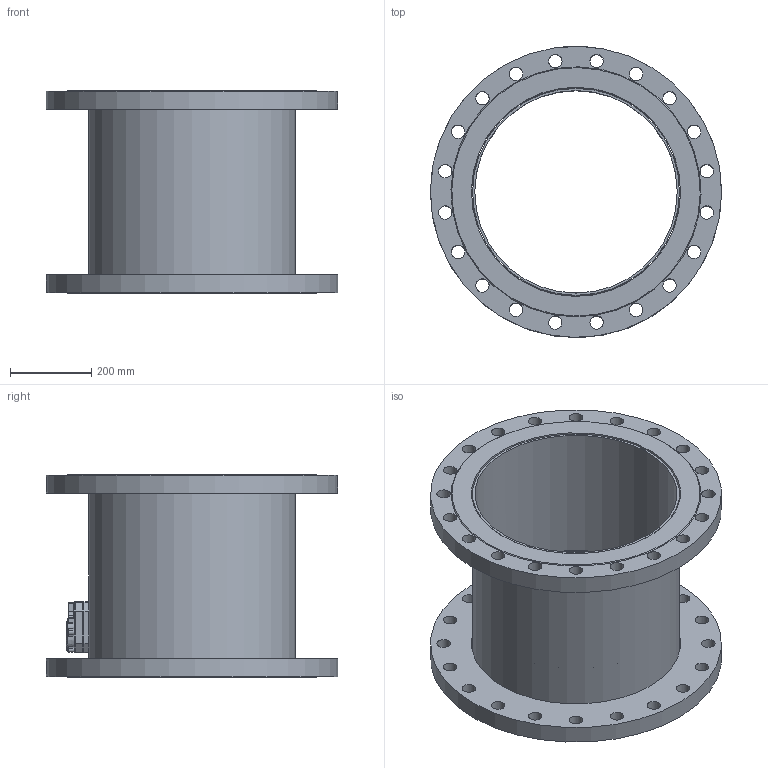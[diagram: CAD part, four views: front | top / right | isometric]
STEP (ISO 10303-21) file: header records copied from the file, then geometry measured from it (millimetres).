
FILE_DESCRIPTION( ( 'Unknown' ), '1' );
FILE_NAME( 'L:/Produit/Debitm/440_DN 350-500/3_Dev/Meca_pce/DN 500/Vente/Fichiers STEP/Assemblage DN500_pour vente.stp', 'Unknown', ( 'Unknown' ), ( 'Unknown' ), 'PSStep 17.0.49', 'Unknown', ' ' );
FILE_SCHEMA( ( 'AUTOMOTIVE_DESIGN { 1 0 10303 214 1 1 1 1 }' ) );
Length unit declared in the file: millimetre
Products named in the file (15): 440_tête_rempli_avec joints; 0440P012_rempli; 0440P060_rempli; 0440P054_rempli; 0440P011_rempli; 0440P052_rempli; Assem1; 0440P204_after welding_rempli; 0440P255; 0440P268
Assembly tree (15 placements, depth 3):
  Assem1
    0440P204_after welding_rempli
    0440P255
    0440P268  x2
    440_tête_rempli_avec joints
      0440P012_rempli
      0440P060_rempli
      0440P060_rempli
      0440P060_rempli
      0440P060_rempli
      0440P060_rempli
      0440P060_rempli
      0440P054_rempli
      0440P011_rempli
      0440P052_rempli
Bounding box: 714.89 x 714.95 x 498 mm (x, y, z)
Volume: 20211026.9 mm3; surface area: 2947098.2 mm2
Topology: 14 solids, 14 shells, 337 faces, 888 edges, 574 vertices
Faces by surface type: cylinder 136, plane 102, cone 55, torus 29, bspline 15
Full cylindrical faces by diameter (mm): 2 x2, 2.2 x1, 2.459 x1, 2.5 x1, 3.242 x2, 4.1 x1, 5.03 x1, 6.2 x6, 6.917 x1, 10 x1, 10.106 x4, 10.2 x2, 16 x2, 20 x2, 33 x40, 35 x2, 501 x1, 508 x1, 513.5 x2, 715 x2
Entity records: 17635 total; most frequent: CARTESIAN_POINT 8920, ORIENTED_EDGE 1348, DIRECTION 962, EDGE_CURVE 674, VERTEX_POINT 471, EDGE_LOOP 446, B_SPLINE_CURVE_WITH_KNOTS 441, AXIS2_PLACEMENT_3D 426
